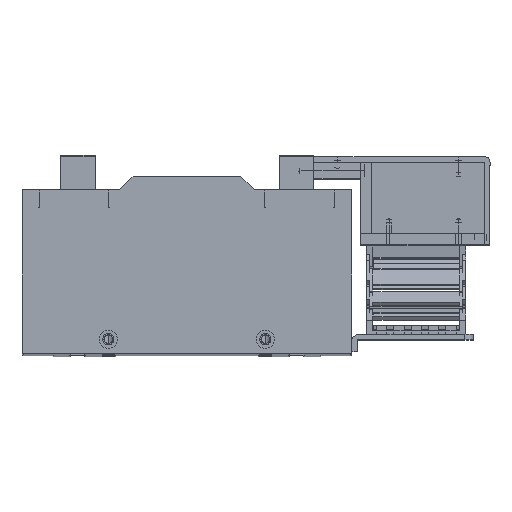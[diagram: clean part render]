
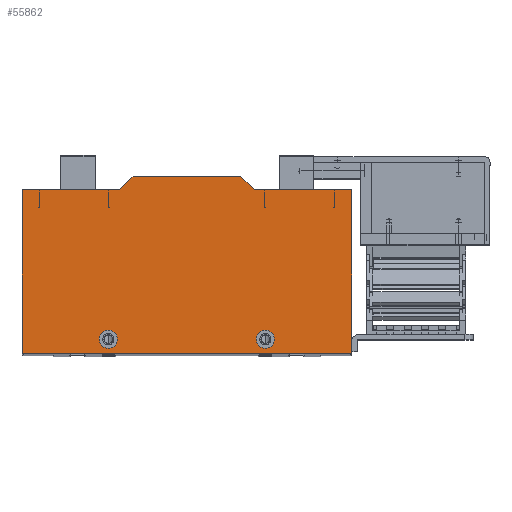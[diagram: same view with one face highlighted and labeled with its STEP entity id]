
A CAD part, top view. The second image highlights one B-rep face of the part: STEP entity #55862.
In plain terms, the highlighted planar face has unit normal (0, 0, 1) as drawn and (0, 0, -1) by its records, which use the part's own axes.
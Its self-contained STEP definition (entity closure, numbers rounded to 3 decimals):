
#15231 = DIRECTION ( 'NONE',  ( -1., 0., 0. ) ) ;
#15232 = DIRECTION ( 'NONE',  ( 0., 0., -1. ) ) ;
#15233 = CARTESIAN_POINT ( 'NONE',  ( -125.441, 76.299, 0. ) ) ;
#15234 = AXIS2_PLACEMENT_3D ( 'NONE', #15233, #15232, #15231 ) ;
#15235 = CIRCLE ( 'NONE', #15234, 5.25 ) ;
#15359 = CARTESIAN_POINT ( 'NONE',  ( 14.809, 84.299, 0. ) ) ;
#15362 = CARTESIAN_POINT ( 'NONE',  ( -175.191, 84.299, 0. ) ) ;
#15368 = DIRECTION ( 'NONE',  ( 1., 0., 0. ) ) ;
#15369 = VECTOR ( 'NONE', #15368, 1000. ) ;
#15370 = CARTESIAN_POINT ( 'NONE',  ( -175.191, 84.299, 0. ) ) ;
#15371 = LINE ( 'NONE', #15370, #15369 ) ;
#15404 = CARTESIAN_POINT ( 'NONE',  ( -130.691, 76.299, 0. ) ) ;
#15458 = LINE ( 'NONE', #15541, #15539 ) ;
#15467 = CARTESIAN_POINT ( 'NONE',  ( -111.191, -17.701, 0. ) ) ;
#15538 = DIRECTION ( 'NONE',  ( -1., 0., 0. ) ) ;
#15539 = VECTOR ( 'NONE', #15538, 1000. ) ;
#15541 = CARTESIAN_POINT ( 'NONE',  ( 14.809, -17.701, 0. ) ) ;
#15552 = DIRECTION ( 'NONE',  ( 0., -1., 0. ) ) ;
#15553 = VECTOR ( 'NONE', #15552, 1000. ) ;
#15554 = CARTESIAN_POINT ( 'NONE',  ( 14.809, 84.299, 0. ) ) ;
#15555 = LINE ( 'NONE', #15554, #15553 ) ;
#15566 = CARTESIAN_POINT ( 'NONE',  ( 14.809, -9.701, 0. ) ) ;
#15697 = CARTESIAN_POINT ( 'NONE',  ( -120.191, 76.299, 0. ) ) ;
#15763 = DIRECTION ( 'NONE',  ( -1., 0., 0. ) ) ;
#15764 = DIRECTION ( 'NONE',  ( 0., 0., -1. ) ) ;
#15765 = CARTESIAN_POINT ( 'NONE',  ( -125.441, 76.299, 0. ) ) ;
#15766 = AXIS2_PLACEMENT_3D ( 'NONE', #15765, #15764, #15763 ) ;
#15767 = CIRCLE ( 'NONE', #15766, 5.25 ) ;
#18035 = CARTESIAN_POINT ( 'NONE',  ( -29.691, 76.299, 0. ) ) ;
#35146 = CARTESIAN_POINT ( 'NONE',  ( -40.191, 76.299, 0. ) ) ;
#35147 = DIRECTION ( 'NONE',  ( -1., 0., 0. ) ) ;
#35149 = DIRECTION ( 'NONE',  ( 0., 0., -1. ) ) ;
#35151 = AXIS2_PLACEMENT_3D ( 'NONE', #35166, #35149, #35147 ) ;
#35153 = CIRCLE ( 'NONE', #35151, 5.25 ) ;
#35166 = CARTESIAN_POINT ( 'NONE',  ( -34.941, 76.299, 0. ) ) ;
#35239 = CARTESIAN_POINT ( 'NONE',  ( -175.191, -9.701, 0. ) ) ;
#35307 = DIRECTION ( 'NONE',  ( 0., 1., 0. ) ) ;
#35308 = VECTOR ( 'NONE', #35307, 1000. ) ;
#35309 = CARTESIAN_POINT ( 'NONE',  ( -175.191, -17.701, 0. ) ) ;
#35321 = LINE ( 'NONE', #35309, #35308 ) ;
#35356 = CARTESIAN_POINT ( 'NONE',  ( -49.191, -17.701, 0. ) ) ;
#55832 = ORIENTED_EDGE ( 'NONE', *, *, #55834, .F. ) ;
#55834 = EDGE_CURVE ( 'NONE', #56157, #56355, #73209, .T. ) ;
#55836 = ORIENTED_EDGE ( 'NONE', *, *, #56156, .F. ) ;
#55838 = EDGE_LOOP ( 'NONE', ( #55839, #55840, #55846, #55866, #55868, #55879, #55883, #55885 ) ) ;
#55839 = ORIENTED_EDGE ( 'NONE', *, *, #56263, .T. ) ;
#55840 = ORIENTED_EDGE ( 'NONE', *, *, #55842, .F. ) ;
#55842 = EDGE_CURVE ( 'NONE', #55844, #56257, #73264, .T. ) ;
#55844 = VERTEX_POINT ( 'NONE', #73260 ) ;
#55846 = ORIENTED_EDGE ( 'NONE', *, *, #55848, .F. ) ;
#55848 = EDGE_CURVE ( 'NONE', #56210, #55844, #73257, .T. ) ;
#55862 = ADVANCED_FACE ( 'NONE', ( #73229, #73228, #73227 ), #73226, .F. ) ;
#55865 = EDGE_LOOP ( 'NONE', ( #55943, #55947 ) ) ;
#55866 = ORIENTED_EDGE ( 'NONE', *, *, #56231, .T. ) ;
#55868 = ORIENTED_EDGE ( 'NONE', *, *, #55870, .F. ) ;
#55870 = EDGE_CURVE ( 'NONE', #55875, #56228, #73283, .T. ) ;
#55875 = VERTEX_POINT ( 'NONE', #73331 ) ;
#55879 = ORIENTED_EDGE ( 'NONE', *, *, #55881, .F. ) ;
#55881 = EDGE_CURVE ( 'NONE', #56171, #55875, #73318, .T. ) ;
#55883 = ORIENTED_EDGE ( 'NONE', *, *, #56191, .T. ) ;
#55885 = ORIENTED_EDGE ( 'NONE', *, *, #56031, .T. ) ;
#55943 = ORIENTED_EDGE ( 'NONE', *, *, #55945, .F. ) ;
#55945 = EDGE_CURVE ( 'NONE', #56046, #56329, #15235, .T. ) ;
#55947 = ORIENTED_EDGE ( 'NONE', *, *, #56334, .F. ) ;
#55949 = EDGE_LOOP ( 'NONE', ( #55832, #55836 ) ) ;
#56031 = EDGE_CURVE ( 'NONE', #56033, #56037, #15371, .T. ) ;
#56033 = VERTEX_POINT ( 'NONE', #15362 ) ;
#56037 = VERTEX_POINT ( 'NONE', #15359 ) ;
#56046 = VERTEX_POINT ( 'NONE', #15404 ) ;
#56156 = EDGE_CURVE ( 'NONE', #56355, #56157, #35153, .T. ) ;
#56157 = VERTEX_POINT ( 'NONE', #35146 ) ;
#56171 = VERTEX_POINT ( 'NONE', #35239 ) ;
#56191 = EDGE_CURVE ( 'NONE', #56171, #56033, #35321, .T. ) ;
#56210 = VERTEX_POINT ( 'NONE', #35356 ) ;
#56228 = VERTEX_POINT ( 'NONE', #15467 ) ;
#56231 = EDGE_CURVE ( 'NONE', #56210, #56228, #15458, .T. ) ;
#56257 = VERTEX_POINT ( 'NONE', #15566 ) ;
#56263 = EDGE_CURVE ( 'NONE', #56037, #56257, #15555, .T. ) ;
#56329 = VERTEX_POINT ( 'NONE', #15697 ) ;
#56334 = EDGE_CURVE ( 'NONE', #56329, #56046, #15767, .T. ) ;
#56355 = VERTEX_POINT ( 'NONE', #18035 ) ;
#73205 = DIRECTION ( 'NONE',  ( -1., 0., 0. ) ) ;
#73206 = DIRECTION ( 'NONE',  ( 0., 0., -1. ) ) ;
#73207 = CARTESIAN_POINT ( 'NONE',  ( -34.941, 76.299, 0. ) ) ;
#73208 = AXIS2_PLACEMENT_3D ( 'NONE', #73207, #73206, #73205 ) ;
#73209 = CIRCLE ( 'NONE', #73208, 5.25 ) ;
#73224 = CARTESIAN_POINT ( 'NONE',  ( -175.191, 84.299, 0. ) ) ;
#73225 = AXIS2_PLACEMENT_3D ( 'NONE', #73224, #73297, #73296 ) ;
#73226 = PLANE ( 'NONE',  #73225 ) ;
#73227 = FACE_OUTER_BOUND ( 'NONE', #55838, .T. ) ;
#73228 = FACE_BOUND ( 'NONE', #55949, .T. ) ;
#73229 = FACE_BOUND ( 'NONE', #55865, .T. ) ;
#73254 = DIRECTION ( 'NONE',  ( 0.707, 0.707, 0. ) ) ;
#73255 = VECTOR ( 'NONE', #73254, 1000. ) ;
#73256 = CARTESIAN_POINT ( 'NONE',  ( -41.191, -9.701, 0. ) ) ;
#73257 = LINE ( 'NONE', #73256, #73255 ) ;
#73260 = CARTESIAN_POINT ( 'NONE',  ( -41.191, -9.701, 0. ) ) ;
#73261 = DIRECTION ( 'NONE',  ( 1., 0., 0. ) ) ;
#73262 = VECTOR ( 'NONE', #73261, 1000. ) ;
#73263 = CARTESIAN_POINT ( 'NONE',  ( 14.809, -9.701, 0. ) ) ;
#73264 = LINE ( 'NONE', #73263, #73262 ) ;
#73280 = DIRECTION ( 'NONE',  ( 0.707, -0.707, 0. ) ) ;
#73281 = VECTOR ( 'NONE', #73280, 1000. ) ;
#73282 = CARTESIAN_POINT ( 'NONE',  ( -111.191, -17.701, 0. ) ) ;
#73283 = LINE ( 'NONE', #73282, #73281 ) ;
#73296 = DIRECTION ( 'NONE',  ( 1., 0., 0. ) ) ;
#73297 = DIRECTION ( 'NONE',  ( 0., 0., 1. ) ) ;
#73315 = DIRECTION ( 'NONE',  ( 1., 0., 0. ) ) ;
#73316 = VECTOR ( 'NONE', #73315, 1000. ) ;
#73317 = CARTESIAN_POINT ( 'NONE',  ( -119.191, -9.701, 0. ) ) ;
#73318 = LINE ( 'NONE', #73317, #73316 ) ;
#73331 = CARTESIAN_POINT ( 'NONE',  ( -119.191, -9.701, 0. ) ) ;
